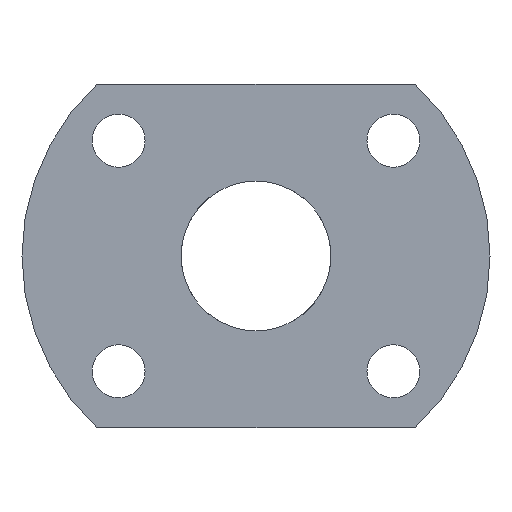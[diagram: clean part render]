
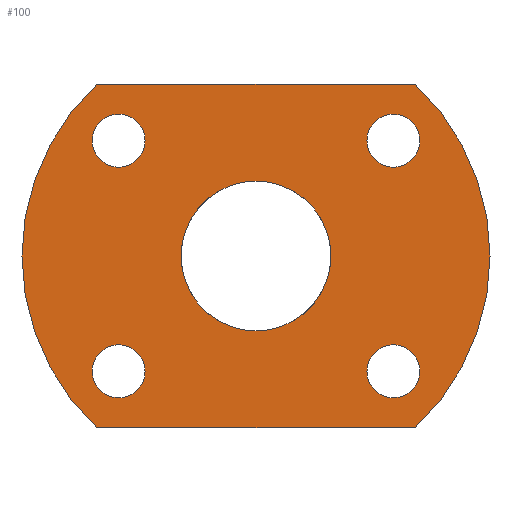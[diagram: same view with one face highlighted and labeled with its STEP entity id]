
A CAD part, left-side view. The second image highlights one B-rep face of the part: STEP entity #100.
In plain terms, the highlighted planar face has unit normal (-1, 0, 0).
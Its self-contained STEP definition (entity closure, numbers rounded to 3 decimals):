
#2 = ORIENTED_EDGE ( 'NONE', *, *, #111, .T. ) ;
#7 = EDGE_LOOP ( 'NONE', ( #887, #496 ) ) ;
#15 = CARTESIAN_POINT ( 'NONE',  ( 0., 0., 0. ) ) ;
#19 = CARTESIAN_POINT ( 'NONE',  ( 0., -8.81, 5.692 ) ) ;
#20 = ORIENTED_EDGE ( 'NONE', *, *, #366, .F. ) ;
#22 = CARTESIAN_POINT ( 'NONE',  ( 0., 4.8, 0. ) ) ;
#30 = CARTESIAN_POINT ( 'NONE',  ( 0., 8.81, 7.392 ) ) ;
#55 = EDGE_LOOP ( 'NONE', ( #238, #906 ) ) ;
#57 = CARTESIAN_POINT ( 'NONE',  ( 0., 8.81, 7.392 ) ) ;
#64 = ORIENTED_EDGE ( 'NONE', *, *, #795, .T. ) ;
#73 = EDGE_CURVE ( 'NONE', #567, #888, #568, .T. ) ;
#75 = CARTESIAN_POINT ( 'NONE',  ( 0., 24.279, -11. ) ) ;
#89 = AXIS2_PLACEMENT_3D ( 'NONE', #103, #674, #163 ) ;
#95 = VERTEX_POINT ( 'NONE', #885 ) ;
#98 = CIRCLE ( 'NONE', #346, 1.7 ) ;
#100 = ADVANCED_FACE ( 'NONE', ( #758, #318, #399, #749, #930, #512 ), #208, .F. ) ;
#103 = CARTESIAN_POINT ( 'NONE',  ( 0., 0., 0. ) ) ;
#108 = CARTESIAN_POINT ( 'NONE',  ( 0., 10.198, -11. ) ) ;
#111 = EDGE_CURVE ( 'NONE', #154, #375, #852, .T. ) ;
#115 = VECTOR ( 'NONE', #968, 1000. ) ;
#122 = LINE ( 'NONE', #952, #913 ) ;
#124 = CIRCLE ( 'NONE', #89, 15. ) ;
#139 = CARTESIAN_POINT ( 'NONE',  ( 0., -8.81, -7.392 ) ) ;
#151 = CARTESIAN_POINT ( 'NONE',  ( 0., 0., 0. ) ) ;
#154 = VERTEX_POINT ( 'NONE', #760 ) ;
#156 = CARTESIAN_POINT ( 'NONE',  ( 0., -8.81, 7.392 ) ) ;
#161 = EDGE_CURVE ( 'NONE', #249, #460, #189, .T. ) ;
#163 = DIRECTION ( 'NONE',  ( 0., 0., 1. ) ) ;
#167 = CARTESIAN_POINT ( 'NONE',  ( 0., -8.81, 7.392 ) ) ;
#170 = CIRCLE ( 'NONE', #746, 1.7 ) ;
#174 = EDGE_LOOP ( 'NONE', ( #246, #470 ) ) ;
#187 = CARTESIAN_POINT ( 'NONE',  ( 0., -10.198, -11. ) ) ;
#189 = CIRCLE ( 'NONE', #709, 1.7 ) ;
#208 = PLANE ( 'NONE',  #722 ) ;
#211 = VERTEX_POINT ( 'NONE', #725 ) ;
#238 = ORIENTED_EDGE ( 'NONE', *, *, #627, .T. ) ;
#246 = ORIENTED_EDGE ( 'NONE', *, *, #613, .F. ) ;
#249 = VERTEX_POINT ( 'NONE', #403 ) ;
#278 = ORIENTED_EDGE ( 'NONE', *, *, #583, .T. ) ;
#280 = DIRECTION ( 'NONE',  ( 1., 0., 0. ) ) ;
#288 = DIRECTION ( 'NONE',  ( 1., 0., 0. ) ) ;
#314 = EDGE_CURVE ( 'NONE', #1015, #660, #398, .T. ) ;
#318 = FACE_BOUND ( 'NONE', #442, .T. ) ;
#320 = DIRECTION ( 'NONE',  ( 1., 0., 0. ) ) ;
#326 = AXIS2_PLACEMENT_3D ( 'NONE', #30, #431, #1025 ) ;
#335 = DIRECTION ( 'NONE',  ( 0., 0., -1. ) ) ;
#346 = AXIS2_PLACEMENT_3D ( 'NONE', #139, #546, #589 ) ;
#351 = CARTESIAN_POINT ( 'NONE',  ( 0., 0., 4.8 ) ) ;
#361 = CIRCLE ( 'NONE', #898, 1.7 ) ;
#366 = EDGE_CURVE ( 'NONE', #914, #375, #973, .T. ) ;
#375 = VERTEX_POINT ( 'NONE', #108 ) ;
#385 = VERTEX_POINT ( 'NONE', #771 ) ;
#397 = CIRCLE ( 'NONE', #761, 4.8 ) ;
#398 = CIRCLE ( 'NONE', #606, 1.7 ) ;
#399 = FACE_BOUND ( 'NONE', #55, .T. ) ;
#403 = CARTESIAN_POINT ( 'NONE',  ( 0., 8.81, 9.092 ) ) ;
#431 = DIRECTION ( 'NONE',  ( 1., 0., 0. ) ) ;
#442 = EDGE_LOOP ( 'NONE', ( #447, #64 ) ) ;
#447 = ORIENTED_EDGE ( 'NONE', *, *, #1029, .T. ) ;
#454 = DIRECTION ( 'NONE',  ( 0., 0., 1. ) ) ;
#457 = EDGE_LOOP ( 'NONE', ( #587, #804 ) ) ;
#460 = VERTEX_POINT ( 'NONE', #679 ) ;
#470 = ORIENTED_EDGE ( 'NONE', *, *, #73, .F. ) ;
#483 = DIRECTION ( 'NONE',  ( 0., 0., -1. ) ) ;
#489 = CIRCLE ( 'NONE', #326, 1.7 ) ;
#495 = DIRECTION ( 'NONE',  ( 0., 0., -1. ) ) ;
#496 = ORIENTED_EDGE ( 'NONE', *, *, #161, .T. ) ;
#498 = EDGE_LOOP ( 'NONE', ( #20, #278, #1051, #2 ) ) ;
#499 = AXIS2_PLACEMENT_3D ( 'NONE', #545, #958, #871 ) ;
#508 = DIRECTION ( 'NONE',  ( -1., 0., 0. ) ) ;
#512 = FACE_OUTER_BOUND ( 'NONE', #498, .T. ) ;
#526 = DIRECTION ( 'NONE',  ( 1., 0., 0. ) ) ;
#545 = CARTESIAN_POINT ( 'NONE',  ( 0., 0., 0. ) ) ;
#546 = DIRECTION ( 'NONE',  ( 1., 0., 0. ) ) ;
#553 = DIRECTION ( 'NONE',  ( -1., 0., 0. ) ) ;
#566 = DIRECTION ( 'NONE',  ( 0., 0., -1. ) ) ;
#567 = VERTEX_POINT ( 'NONE', #763 ) ;
#568 = CIRCLE ( 'NONE', #499, 4.8 ) ;
#583 = EDGE_CURVE ( 'NONE', #914, #95, #124, .T. ) ;
#587 = ORIENTED_EDGE ( 'NONE', *, *, #850, .T. ) ;
#589 = DIRECTION ( 'NONE',  ( 0., 0., -1. ) ) ;
#591 = DIRECTION ( 'NONE',  ( 0., 0., -1. ) ) ;
#600 = DIRECTION ( 'NONE',  ( 1., 0., 0. ) ) ;
#606 = AXIS2_PLACEMENT_3D ( 'NONE', #167, #288, #591 ) ;
#613 = EDGE_CURVE ( 'NONE', #888, #567, #397, .T. ) ;
#626 = CARTESIAN_POINT ( 'NONE',  ( 0., 8.81, -7.392 ) ) ;
#627 = EDGE_CURVE ( 'NONE', #660, #1015, #642, .T. ) ;
#642 = CIRCLE ( 'NONE', #874, 1.7 ) ;
#660 = VERTEX_POINT ( 'NONE', #19 ) ;
#662 = DIRECTION ( 'NONE',  ( 1., 0., 0. ) ) ;
#664 = AXIS2_PLACEMENT_3D ( 'NONE', #151, #508, #454 ) ;
#674 = DIRECTION ( 'NONE',  ( -1., 0., 0. ) ) ;
#679 = CARTESIAN_POINT ( 'NONE',  ( 0., 8.81, 5.692 ) ) ;
#681 = DIRECTION ( 'NONE',  ( 1., 0., 0. ) ) ;
#703 = DIRECTION ( 'NONE',  ( 0., 0., -1. ) ) ;
#709 = AXIS2_PLACEMENT_3D ( 'NONE', #57, #526, #335 ) ;
#722 = AXIS2_PLACEMENT_3D ( 'NONE', #22, #662, #978 ) ;
#725 = CARTESIAN_POINT ( 'NONE',  ( 0., -8.81, -9.092 ) ) ;
#728 = AXIS2_PLACEMENT_3D ( 'NONE', #1050, #681, #566 ) ;
#745 = EDGE_CURVE ( 'NONE', #154, #95, #122, .T. ) ;
#746 = AXIS2_PLACEMENT_3D ( 'NONE', #626, #600, #703 ) ;
#749 = FACE_BOUND ( 'NONE', #457, .T. ) ;
#758 = FACE_BOUND ( 'NONE', #7, .T. ) ;
#759 = EDGE_CURVE ( 'NONE', #460, #249, #489, .T. ) ;
#760 = CARTESIAN_POINT ( 'NONE',  ( 0., 10.198, 11. ) ) ;
#761 = AXIS2_PLACEMENT_3D ( 'NONE', #15, #553, #1057 ) ;
#763 = CARTESIAN_POINT ( 'NONE',  ( 0., 0., -4.8 ) ) ;
#771 = CARTESIAN_POINT ( 'NONE',  ( 0., 8.81, -5.692 ) ) ;
#795 = EDGE_CURVE ( 'NONE', #385, #938, #903, .T. ) ;
#799 = CARTESIAN_POINT ( 'NONE',  ( 0., -8.81, 9.092 ) ) ;
#800 = CARTESIAN_POINT ( 'NONE',  ( 0., -8.81, -5.692 ) ) ;
#804 = ORIENTED_EDGE ( 'NONE', *, *, #813, .T. ) ;
#813 = EDGE_CURVE ( 'NONE', #953, #211, #361, .T. ) ;
#824 = CARTESIAN_POINT ( 'NONE',  ( 0., 8.81, -9.092 ) ) ;
#850 = EDGE_CURVE ( 'NONE', #211, #953, #98, .T. ) ;
#852 = CIRCLE ( 'NONE', #664, 15. ) ;
#871 = DIRECTION ( 'NONE',  ( 0., 0., 1. ) ) ;
#874 = AXIS2_PLACEMENT_3D ( 'NONE', #156, #280, #483 ) ;
#885 = CARTESIAN_POINT ( 'NONE',  ( 0., -10.198, 11. ) ) ;
#887 = ORIENTED_EDGE ( 'NONE', *, *, #759, .T. ) ;
#888 = VERTEX_POINT ( 'NONE', #351 ) ;
#898 = AXIS2_PLACEMENT_3D ( 'NONE', #970, #320, #495 ) ;
#903 = CIRCLE ( 'NONE', #728, 1.7 ) ;
#906 = ORIENTED_EDGE ( 'NONE', *, *, #314, .T. ) ;
#913 = VECTOR ( 'NONE', #965, 1000. ) ;
#914 = VERTEX_POINT ( 'NONE', #187 ) ;
#930 = FACE_BOUND ( 'NONE', #174, .T. ) ;
#938 = VERTEX_POINT ( 'NONE', #824 ) ;
#952 = CARTESIAN_POINT ( 'NONE',  ( 0., 24.279, 11. ) ) ;
#953 = VERTEX_POINT ( 'NONE', #800 ) ;
#958 = DIRECTION ( 'NONE',  ( -1., 0., 0. ) ) ;
#965 = DIRECTION ( 'NONE',  ( 0., -1., 0. ) ) ;
#968 = DIRECTION ( 'NONE',  ( 0., 1., 0. ) ) ;
#970 = CARTESIAN_POINT ( 'NONE',  ( 0., -8.81, -7.392 ) ) ;
#973 = LINE ( 'NONE', #75, #115 ) ;
#978 = DIRECTION ( 'NONE',  ( 0., 0., -1. ) ) ;
#1015 = VERTEX_POINT ( 'NONE', #799 ) ;
#1025 = DIRECTION ( 'NONE',  ( 0., 0., -1. ) ) ;
#1029 = EDGE_CURVE ( 'NONE', #938, #385, #170, .T. ) ;
#1050 = CARTESIAN_POINT ( 'NONE',  ( 0., 8.81, -7.392 ) ) ;
#1051 = ORIENTED_EDGE ( 'NONE', *, *, #745, .F. ) ;
#1057 = DIRECTION ( 'NONE',  ( 0., 0., 1. ) ) ;
